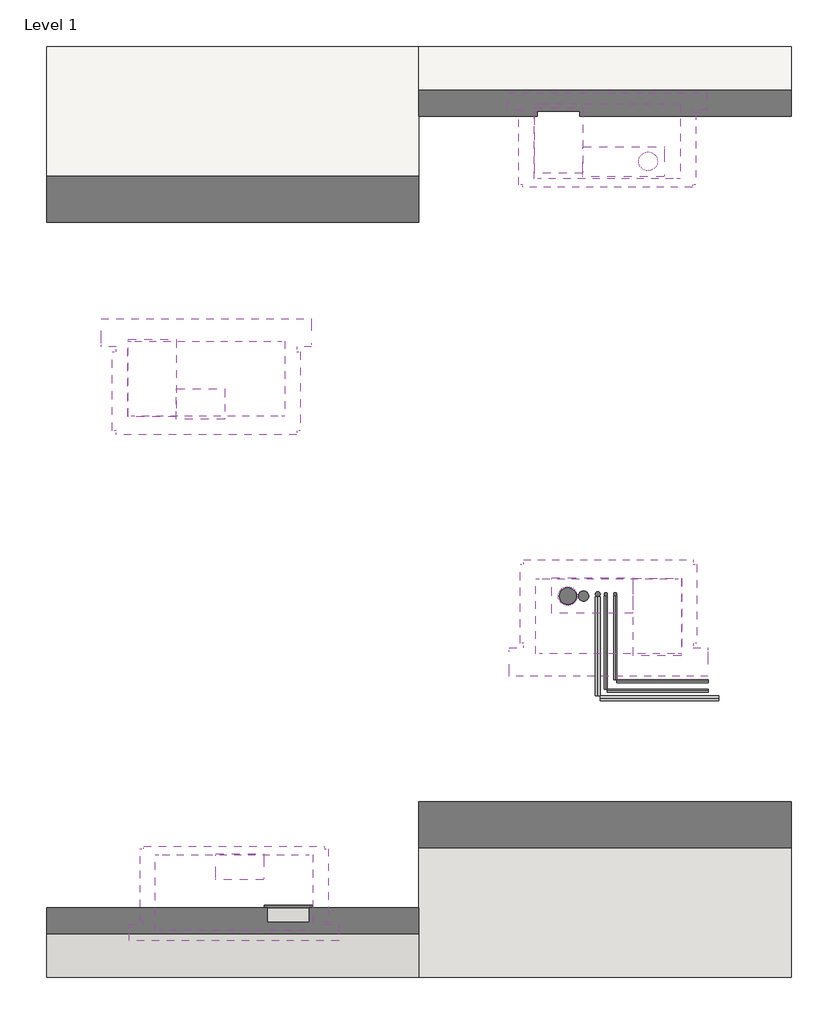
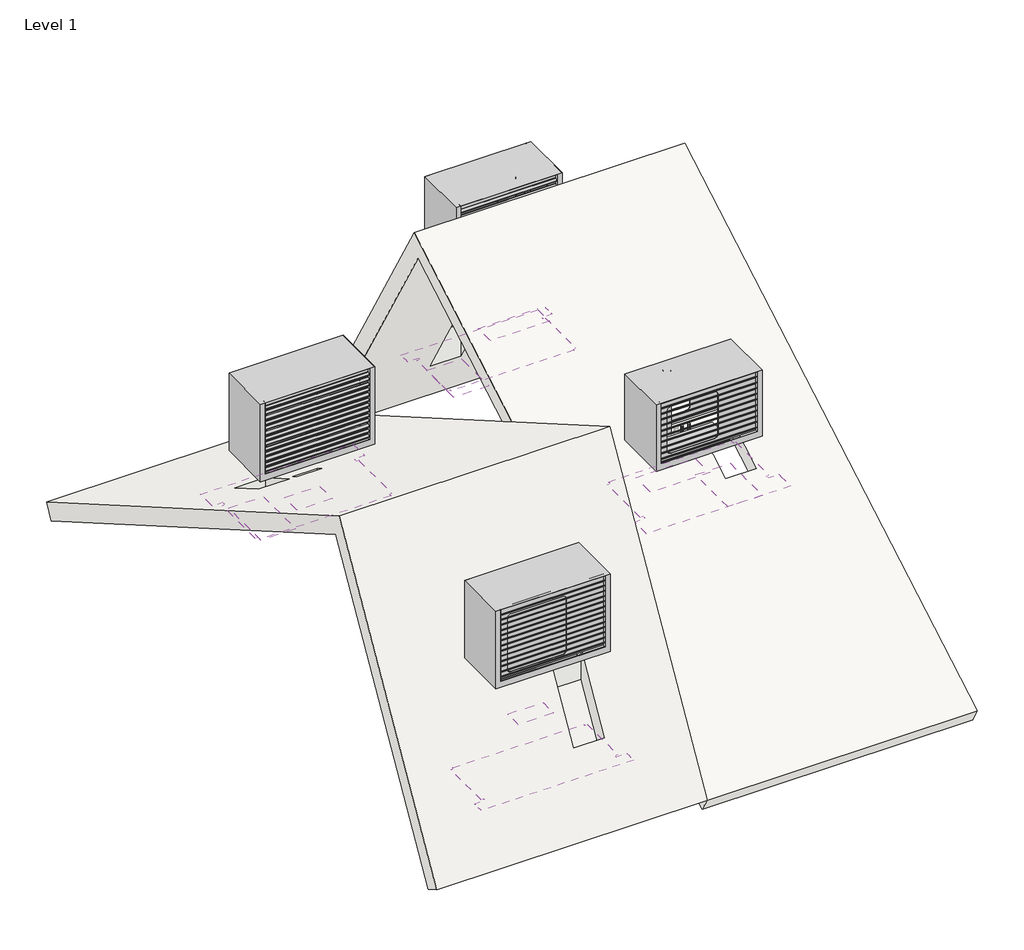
# One storey, incomplete: 12 coverings, 12 pipe segments, 4 unitary equipment elements, 2 roofs, 1 duct segment.
"""IFC4 building model written with IfcOpenShell, lengths in millimetres."""

from ifc_helpers import new_model, si_unit, point, frame, frame_2d, origin, place, context, project, spatial, circle_curve, trimmed, segment, composite_curve, outline, extrude, faceted_brep, transform, mapped, element, save
from components import covering_ebfa055f, covering_0022e7d6, covering_44cbcef2, covering_b66512e7, covering_b17e486a, covering_12e15cb3, covering_40b79405, covering_237e270b, inspection_panel_dda_93841c41, inspection_panel_dda_a83ceb8f, pipe_segment_adc9d0ba, delta_discovery_air_bdbf6794, delta_discovery_air_83ad3b17, delta_discovery_air_xl_f5126de7, delta_discovery_air_xl_14b97afa

model = new_model("IFC4")

# Units and contexts
model_context = context("Model", 3, world=origin())
ifc_project = project(units=[si_unit("LENGTHUNIT", "METRE", prefix="MILLI")], contexts=[model_context])

# Site, building, storey
site = spatial("IfcSite", under=ifc_project)
building = spatial("IfcBuilding", under=site)
storey = spatial("IfcBuildingStorey", under=building, Name="Level 1", Elevation=0.0)

# Coverings
placement = place(None, origin())
covering_shape = covering_ebfa055f(model_context)
element("IfcCovering", 1, ObjectType="M&G_5-_GM_WPB_Delta Discovery Air_roofboard-SH_BERSnl : roofboard DDA", at=placement, inside=storey, context=model_context, shape_type="MappedRepresentation", body=[
    mapped(covering_shape, transform((8173.9996074, -2235.3633269, 2475.4617163), x_axis=(0.0, 1.0, 0.0), y_axis=(-1.0, 0.0, 0.0), z_axis=(0.0, 0.0, 1.0))),
])
covering_2_shape = covering_0022e7d6(model_context)
element("IfcCovering", 2, ObjectType="M&G_5-_GM_WPB_Delta Discovery Air_roofboard-SH_BERSnl : roofboard DDA-XL", at=placement, inside=storey, context=model_context, shape_type="MappedRepresentation", body=[
    mapped(covering_2_shape, transform((4387.1169231, -5151.0925738, 1942.219356), x_axis=(0.0, 1.0, 0.0), y_axis=(-1.0, 0.0, 0.0), z_axis=(0.0, 0.0, 1.0))),
])
covering_3_shape = covering_44cbcef2(model_context)
element("IfcCovering", 3, ObjectType="M&G_5-_GM_WPB_Delta Discovery Air_roofboard-SH_BERSnl : roofboard DDA", at=placement, inside=storey, context=model_context, shape_type="MappedRepresentation", body=[
    mapped(covering_3_shape, transform((8510.5299691, 2441.3325879, 2027.822587), x_axis=(0.0, -1.0, 0.0), y_axis=(1.0, 0.0, 0.0), z_axis=(0.0, 0.0, 1.0))),
])
covering_4_shape = covering_b66512e7(model_context)
element("IfcCovering", 4, ObjectType="M&G_5-_GM_WPB_Delta Discovery Air_mountingbox-SH_BERSnl : mountingbox DDA", at=placement, inside=storey, context=model_context, shape_type="MappedRepresentation", body=[
    mapped(covering_4_shape, transform((8348.9996074, -2790.8188759, 2443.4405917), x_axis=(0.0, 1.0, 0.0), y_axis=(-1.0, 0.0, 0.0), z_axis=(0.0, 0.0, 1.0))),
])
covering_5_shape = covering_b17e486a(model_context)
element("IfcCovering", 5, ObjectType="M&G_5-_GM_WPB_Delta Discovery Air_mountingbox-SH_BERSnl : mountingbox DDA-XL", at=placement, inside=storey, context=model_context, shape_type="MappedRepresentation", body=[
    mapped(covering_5_shape, transform((4325.6169231, -5757.5859079, 1391.7305412), x_axis=(0.0, 1.0, 0.0), y_axis=(-1.0, 0.0, 0.0), z_axis=(0.0, 0.0, 1.0))),
])
covering_6_shape = covering_12e15cb3(model_context)
element("IfcCovering", 6, ObjectType="M&G_5-_GM_WPB_Delta Discovery Air_mountingbox-SH_BERSnl : mountingbox DDA", at=placement, inside=storey, context=model_context, shape_type="MappedRepresentation", body=[
    mapped(covering_6_shape, transform((8335.5299691, 2993.325922, 1571.7305412), x_axis=(0.0, -1.0, 0.0), y_axis=(1.0, 0.0, 0.0), z_axis=(0.0, 0.0, 1.0))),
])
covering_7_shape = covering_40b79405(model_context)
element("IfcCovering", 7, ObjectType="M&G_5-_GM_WPB_Delta Discovery Air_mountingbox-SH_BERSnl : mountingbox DDA-XL", at=placement, inside=storey, context=model_context, shape_type="MappedRepresentation", body=[
    mapped(covering_7_shape, transform((4028.9796779, 442.2510838, 2263.4405917), x_axis=(0.0, -1.0, 0.0), y_axis=(1.0, 0.0, 0.0), z_axis=(0.0, 0.0, 1.0))),
])
covering_8_shape = covering_237e270b(model_context)
element("IfcCovering", 8, ObjectType="M&G_5-_GM_WPB_Delta Discovery Air_roofboard-SH_BERSnl : roofboard DDA-XL", at=placement, inside=storey, context=model_context, shape_type="MappedRepresentation", body=[
    mapped(covering_8_shape, transform((3967.4796779, -166.4650275, 2326.2117163), x_axis=(0.0, -1.0, 0.0), y_axis=(1.0, 0.0, 0.0), z_axis=(0.0, 0.0, 1.0))),
])
inspection_panel_dda_shape = inspection_panel_dda_93841c41(model_context)
element("IfcCovering", 9, ObjectType="M&G_5-_GM_WPB_Delta Discovery Air_insp panel-SH_BERSnl : inspection panel DDA", at=placement, inside=storey, context=model_context, shape_type="MappedRepresentation", body=[
    mapped(inspection_panel_dda_shape, transform((8871.4996074, -2464.4270462, 2343.2117163), x_axis=(0.0, 1.0000000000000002, 0.0), y_axis=(-1.0000000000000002, 0.0, 0.0), z_axis=(0.0, 0.0, 1.0))),
])
element("IfcCovering", 10, ObjectType="M&G_5-_GM_WPB_Delta Discovery Air_insp panel-SH_BERSnl : inspection panel DDA", at=placement, inside=storey, context=model_context, shape_type="MappedRepresentation", body=[
    mapped(inspection_panel_dda_shape, transform((3446.4796779, 115.8592541, 2163.2117163), x_axis=(0.0, -1.0000000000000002, 0.0), y_axis=(1.0000000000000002, 0.0, 0.0), z_axis=(0.0, 0.0, 1.0))),
])
inspection_panel_dda_2_shape = inspection_panel_dda_a83ceb8f(model_context)
element("IfcCovering", 11, ObjectType="M&G_5-_GM_WPB_Delta Discovery Air_insp panel-SH_BERSnl : inspection panel DDA", at=placement, inside=storey, context=model_context, shape_type="MappedRepresentation", body=[
    mapped(inspection_panel_dda_2_shape, transform((4908.1169231, -5435.0925738, 1450.3169266), x_axis=(0.0, 1.0000000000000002, 0.0), y_axis=(-1.0000000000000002, 0.0, 0.0), z_axis=(0.0, 0.0, 1.0))),
])
element("IfcCovering", 12, ObjectType="M&G_5-_GM_WPB_Delta Discovery Air_insp panel-SH_BERSnl : inspection panel DDA", at=placement, inside=storey, context=model_context, shape_type="MappedRepresentation", body=[
    mapped(inspection_panel_dda_2_shape, transform((7813.0299691, 2670.8325879, 1630.3169266), x_axis=(0.0, -1.0000000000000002, 0.0), y_axis=(1.0000000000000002, 0.0, 0.0), z_axis=(0.0, 0.0, 1.0))),
])

# Duct segment
element("IfcDuctSegment", 13, ObjectType="Default", at=placement, inside=storey, context=model_context, shape_type="SweptSolid", body=[
    extrude(outline(composite_curve([segment(trimmed(circle_curve(frame_2d((7910.9996074, -2233.8255417)), 90.0), [point((7910.9996074, -2143.8255417))], [point((8000.9996074, -2233.8255417))], False, "CARTESIAN"), True, "CONTINUOUS"), segment(trimmed(circle_curve(frame_2d((7910.9996074, -2233.8255417)), 90.0), [point((8000.9996074, -2233.8255417))], [point((7910.9996074, -2323.8255417))], False, "CARTESIAN"), True, "CONTINUOUS"), segment(trimmed(circle_curve(frame_2d((7910.9996074, -2233.8255417)), 90.0), [point((7910.9996074, -2323.8255417))], [point((7820.9996074, -2233.8255417))], False, "CARTESIAN"), True, "CONTINUOUS"), segment(trimmed(circle_curve(frame_2d((7910.9996074, -2233.8255417)), 90.0), [point((7820.9996074, -2233.8255417))], [point((7910.9996074, -2143.8255417))], False, "CARTESIAN"), True, "CONTINUOUS")], self_intersect=False)), frame((0.0, 0.0, 564.2186654), z_axis=(0.0, 0.0, 1.0), x_axis=(1.0, 0.0, 0.0)), (0.0, 0.0, 1.0), 1500.0),
])

# Pipe segments
pipe_segment_shape = pipe_segment_adc9d0ba(model_context)
element("IfcPipeSegment", 14, ObjectType="M&G_5-_GM_WPB_Delta Discovery Air_pipe extension set-SH_BERSnl : pipe ext set L=1000mm", at=placement, inside=storey, context=model_context, shape_type="MappedRepresentation", body=[
    mapped(pipe_segment_shape, transform((7910.9996074, -2233.8255417, 3064.2186654), x_axis=(1.0, 0.0, 0.0), y_axis=(0.0, 1.0, 0.0), z_axis=(0.0, 0.0, 1.0))),
])
element("IfcPipeSegment", 15, ObjectType="M&G_5-_GM_WPB_Delta Discovery Air_pipe extension set-SH_BERSnl : pipe ext set L=1000mm", at=placement, inside=storey, context=model_context, shape_type="MappedRepresentation", body=[
    mapped(pipe_segment_shape, transform((8773.5299691, 2436.3325879, 3064.2186654), x_axis=(-1.0, 0.0, 0.0), y_axis=(0.0, -1.0, 0.0), z_axis=(0.0, 0.0, 1.0))),
])
element("IfcPipeSegment", 16, ObjectType="design HDPE", at=placement, inside=storey, context=model_context, shape_type="SweptSolid", body=[
    extrude(outline(composite_curve([segment(trimmed(circle_curve(frame_2d((0.0, 24.9999999)), 25.0), [point((25.0, 24.9999999))], [point((0.0, 0.0))], False, "CARTESIAN"), True, "CONTINUOUS"), segment(trimmed(circle_curve(frame_2d((0.0, 24.9999999)), 25.0), [point((0.0, 0.0))], [point((-25.0, 24.9999999))], False, "CARTESIAN"), True, "CONTINUOUS"), segment(trimmed(circle_curve(frame_2d((0.0, 24.9999999)), 25.0), [point((-25.0, 24.9999999))], [point((0.0, 50.0))], False, "CARTESIAN"), True, "CONTINUOUS"), segment(trimmed(circle_curve(frame_2d((0.0, 24.9999999)), 25.0), [point((0.0, 50.0))], [point((25.0, 24.9999999))], False, "CARTESIAN"), True, "CONTINUOUS")], self_intersect=False)), frame((8233.1495399, -3303.95623, 79.9148917), z_axis=(0.0, 0.9998875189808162, 0.01499831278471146), x_axis=(1.0, 0.0, 0.0)), (0.0, 0.0, 1.0), 1063.3784898),
])
element("IfcPipeSegment", 17, ObjectType="design HDPE", at=placement, inside=storey, context=model_context, shape_type="SweptSolid", body=[
    extrude(outline(composite_curve([segment(trimmed(circle_curve(frame_2d((0.0, 25.0)), 25.0), [point((0.0, 50.0))], [point((25.0, 25.0))], False, "CARTESIAN"), True, "CONTINUOUS"), segment(trimmed(circle_curve(frame_2d((0.0, 25.0)), 25.0), [point((25.0, 25.0))], [point((0.0, 0.0))], False, "CARTESIAN"), True, "CONTINUOUS"), segment(trimmed(circle_curve(frame_2d((0.0, 25.0)), 25.0), [point((0.0, 0.0))], [point((-25.0, 25.0))], False, "CARTESIAN"), True, "CONTINUOUS"), segment(trimmed(circle_curve(frame_2d((0.0, 25.0)), 25.0), [point((-25.0, 25.0))], [point((0.0, 50.0))], False, "CARTESIAN"), True, "CONTINUOUS")], self_intersect=False)), frame((9532.9996074, -3356.5781227, 35.0), z_axis=(-0.9998875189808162, 0.0, 0.014998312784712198), x_axis=(0.014998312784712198, 0.0, 0.9998875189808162)), (0.0, 0.0, 1.0), 1271.9962924),
])
element("IfcPipeSegment", 18, ObjectType="design HDPE", at=placement, inside=storey, context=model_context, shape_type="SweptSolid", body=[
    extrude(outline(composite_curve([segment(trimmed(circle_curve(frame_2d((8232.9996074, -2212.3255417)), 25.0), [point((8257.9996074, -2212.3255417))], [point((8232.9996074, -2237.3255417))], False, "CARTESIAN"), True, "CONTINUOUS"), segment(trimmed(circle_curve(frame_2d((8232.9996074, -2212.3255417)), 25.0), [point((8232.9996074, -2237.3255417))], [point((8207.9996074, -2212.3255417))], False, "CARTESIAN"), True, "CONTINUOUS"), segment(trimmed(circle_curve(frame_2d((8232.9996074, -2212.3255417)), 25.0), [point((8207.9996074, -2212.3255417))], [point((8232.9996074, -2187.3255417))], False, "CARTESIAN"), True, "CONTINUOUS"), segment(trimmed(circle_curve(frame_2d((8232.9996074, -2212.3255417)), 25.0), [point((8232.9996074, -2187.3255417))], [point((8257.9996074, -2212.3255417))], False, "CARTESIAN"), True, "CONTINUOUS")], self_intersect=False)), frame((0.0, 0.0, 99.2865397), z_axis=(0.0, 0.0, 1.0), x_axis=(1.0, 0.0, 0.0)), (0.0, 0.0, 1.0), 1964.9321256),
])
element("IfcPipeSegment", 19, ObjectType="design HDPE", at=placement, inside=storey, context=model_context, shape_type="SweptSolid", body=[
    extrude(outline(composite_curve([segment(trimmed(circle_curve(frame_2d((8080.9996074, -2233.8255417)), 55.0), [point((8135.9996074, -2233.8255417))], [point((8080.9996074, -2288.8255417))], False, "CARTESIAN"), True, "CONTINUOUS"), segment(trimmed(circle_curve(frame_2d((8080.9996074, -2233.8255417)), 55.0), [point((8080.9996074, -2288.8255417))], [point((8025.9996074, -2233.8255417))], False, "CARTESIAN"), True, "CONTINUOUS"), segment(trimmed(circle_curve(frame_2d((8080.9996074, -2233.8255417)), 55.0), [point((8025.9996074, -2233.8255417))], [point((8080.9996074, -2178.8255417))], False, "CARTESIAN"), True, "CONTINUOUS"), segment(trimmed(circle_curve(frame_2d((8080.9996074, -2233.8255417)), 55.0), [point((8080.9996074, -2178.8255417))], [point((8135.9996074, -2233.8255417))], False, "CARTESIAN"), True, "CONTINUOUS")], self_intersect=False)), frame((0.0, 0.0, 264.2186654), z_axis=(0.0, 0.0, 1.0), x_axis=(1.0, 0.0, 0.0)), (0.0, 0.0, 1.0), 1800.0),
])
element("IfcPipeSegment", 20, ObjectType="design steel pipes", at=placement, inside=storey, context=model_context, shape_type="SweptSolid", body=[
    extrude(outline(composite_curve([segment(trimmed(circle_curve(frame_2d((8419.9996074, -2212.3255417)), 16.85), [point((8436.8496074, -2212.3255417))], [point((8419.9996074, -2229.1755417))], False, "CARTESIAN"), True, "CONTINUOUS"), segment(trimmed(circle_curve(frame_2d((8419.9996074, -2212.3255417)), 16.85), [point((8419.9996074, -2229.1755417))], [point((8403.1496074, -2212.3255417))], False, "CARTESIAN"), True, "CONTINUOUS"), segment(trimmed(circle_curve(frame_2d((8419.9996074, -2212.3255417)), 16.85), [point((8403.1496074, -2212.3255417))], [point((8419.9996074, -2195.4755417))], False, "CARTESIAN"), True, "CONTINUOUS"), segment(trimmed(circle_curve(frame_2d((8419.9996074, -2212.3255417)), 16.85), [point((8419.9996074, -2195.4755417))], [point((8436.8496074, -2212.3255417))], False, "CARTESIAN"), True, "CONTINUOUS")], self_intersect=False)), frame((0.0, 0.0, 42.5), z_axis=(0.0, 0.0, 1.0), x_axis=(1.0, 0.0, 0.0)), (0.0, 0.0, 1.0), 3013.9759803),
])
element("IfcPipeSegment", 21, ObjectType="design steel pipes", at=placement, inside=storey, context=model_context, shape_type="SweptSolid", body=[
    extrude(outline(composite_curve([segment(trimmed(circle_curve(frame_2d((25.0, 8419.9996074)), 16.85), [point((25.0, 8403.1496074))], [point((8.15, 8419.9996074))], False, "CARTESIAN"), True, "CONTINUOUS"), segment(trimmed(circle_curve(frame_2d((25.0, 8419.9996074)), 16.85), [point((8.15, 8419.9996074))], [point((25.0, 8436.8496074))], False, "CARTESIAN"), True, "CONTINUOUS"), segment(trimmed(circle_curve(frame_2d((25.0, 8419.9996074)), 16.85), [point((25.0, 8436.8496074))], [point((41.85, 8419.9996074))], False, "CARTESIAN"), True, "CONTINUOUS"), segment(trimmed(circle_curve(frame_2d((25.0, 8419.9996074)), 16.85), [point((41.85, 8419.9996074))], [point((25.0, 8403.1496074))], False, "CARTESIAN"), True, "CONTINUOUS")], self_intersect=False)), frame((0.0, -3132.1555467, 0.0), z_axis=(0.0, 1.0, 0.0), x_axis=(0.0, 0.0, 1.0)), (0.0, 0.0, 1.0), 902.330005),
])
element("IfcPipeSegment", 22, ObjectType="design steel pipes", at=placement, inside=storey, context=model_context, shape_type="SweptSolid", body=[
    extrude(outline(composite_curve([segment(trimmed(circle_curve(frame_2d((0.0, 16.8499999)), 16.85), [point((-16.85, 16.8499999))], [point((0.0, 33.6999999))], False, "CARTESIAN"), True, "CONTINUOUS"), segment(trimmed(circle_curve(frame_2d((0.0, 16.8499999)), 16.85), [point((0.0, 33.6999999))], [point((16.85, 16.8499999))], False, "CARTESIAN"), True, "CONTINUOUS"), segment(trimmed(circle_curve(frame_2d((0.0, 16.8499999)), 16.85), [point((16.85, 16.8499999))], [point((0.0, 0.0))], False, "CARTESIAN"), True, "CONTINUOUS"), segment(trimmed(circle_curve(frame_2d((0.0, 16.8499999)), 16.85), [point((0.0, 0.0))], [point((-16.85, 16.8499999))], False, "CARTESIAN"), True, "CONTINUOUS")], self_intersect=False)), frame((8437.5000121, -3149.6555467, 8.1504204), z_axis=(0.9999999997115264, 0.0, 2.401972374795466e-05), x_axis=(0.0, 1.0, 0.0)), (0.0, 0.0, 1.0), 982.545617),
])
element("IfcPipeSegment", 23, ObjectType="design steel pipes", at=placement, inside=storey, context=model_context, shape_type="SweptSolid", body=[
    extrude(outline(composite_curve([segment(trimmed(circle_curve(frame_2d((8319.9996074, -2212.3255417)), 16.85), [point((8303.1496074, -2212.3255417))], [point((8319.9996074, -2195.4755417))], False, "CARTESIAN"), True, "CONTINUOUS"), segment(trimmed(circle_curve(frame_2d((8319.9996074, -2212.3255417)), 16.85), [point((8319.9996074, -2195.4755417))], [point((8336.8496074, -2212.3255417))], False, "CARTESIAN"), True, "CONTINUOUS"), segment(trimmed(circle_curve(frame_2d((8319.9996074, -2212.3255417)), 16.85), [point((8336.8496074, -2212.3255417))], [point((8319.9996074, -2229.1755417))], False, "CARTESIAN"), True, "CONTINUOUS"), segment(trimmed(circle_curve(frame_2d((8319.9996074, -2212.3255417)), 16.85), [point((8319.9996074, -2229.1755417))], [point((8303.1496074, -2212.3255417))], False, "CARTESIAN"), True, "CONTINUOUS")], self_intersect=False)), frame((0.0, 0.0, 42.5), z_axis=(0.0, 0.0, 1.0), x_axis=(1.0, 0.0, 0.0)), (0.0, 0.0, 1.0), 3013.9759803),
])
element("IfcPipeSegment", 24, ObjectType="design steel pipes", at=placement, inside=storey, context=model_context, shape_type="SweptSolid", body=[
    extrude(outline(composite_curve([segment(trimmed(circle_curve(frame_2d((25.0, 8319.9996074)), 16.85), [point((25.0, 8303.1496074))], [point((8.15, 8319.9996074))], False, "CARTESIAN"), True, "CONTINUOUS"), segment(trimmed(circle_curve(frame_2d((25.0, 8319.9996074)), 16.85), [point((8.15, 8319.9996074))], [point((25.0, 8336.8496074))], False, "CARTESIAN"), True, "CONTINUOUS"), segment(trimmed(circle_curve(frame_2d((25.0, 8319.9996074)), 16.85), [point((25.0, 8336.8496074))], [point((41.85, 8319.9996074))], False, "CARTESIAN"), True, "CONTINUOUS"), segment(trimmed(circle_curve(frame_2d((25.0, 8319.9996074)), 16.85), [point((41.85, 8319.9996074))], [point((25.0, 8303.1496074))], False, "CARTESIAN"), True, "CONTINUOUS")], self_intersect=False)), frame((0.0, -3232.1555467, 0.0), z_axis=(0.0, 1.0, 0.0), x_axis=(0.0, 0.0, 1.0)), (0.0, 0.0, 1.0), 1002.330005),
])
element("IfcPipeSegment", 25, ObjectType="design steel pipes", at=placement, inside=storey, context=model_context, shape_type="SweptSolid", body=[
    extrude(outline(composite_curve([segment(trimmed(circle_curve(frame_2d((0.0, 16.8499999)), 16.85), [point((-16.85, 16.8499999))], [point((0.0, 33.6999999))], False, "CARTESIAN"), True, "CONTINUOUS"), segment(trimmed(circle_curve(frame_2d((0.0, 16.8499999)), 16.85), [point((0.0, 33.6999999))], [point((16.85, 16.8499999))], False, "CARTESIAN"), True, "CONTINUOUS"), segment(trimmed(circle_curve(frame_2d((0.0, 16.8499999)), 16.85), [point((16.85, 16.8499999))], [point((0.0, 0.0))], False, "CARTESIAN"), True, "CONTINUOUS"), segment(trimmed(circle_curve(frame_2d((0.0, 16.8499999)), 16.85), [point((0.0, 0.0))], [point((-16.85, 16.8499999))], False, "CARTESIAN"), True, "CONTINUOUS")], self_intersect=False)), frame((8337.5000121, -3249.6555467, 8.1504204), z_axis=(0.9999999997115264, 0.0, 2.401972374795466e-05), x_axis=(0.0, 1.0, 0.0)), (0.0, 0.0, 1.0), 1082.545617),
])

# Roofs
element("IfcRoof", 26, ObjectType="Roof 1", at=placement, inside=storey, context=model_context, shape_type="Brep", body=[
    faceted_brep([(2311.6571684, -6330.1684687, 400.0), (2311.6571684, -3830.1684687, 4730.1270189), (2311.6571684, 3669.8315313, 400.0), (2311.6571684, 3544.8315313, 183.4936491), (2311.6571684, -3738.6621178, 4388.620668), (2311.6571684, -6113.6621178, 275.0), (6311.6571684, -3830.1684687, 4730.1270189), (6311.6571684, -6330.1684687, 400.0), (6311.6571684, -6113.6621178, 275.0), (6311.6571684, -3738.6621178, 4388.620668), (6311.6571684, 3544.8315313, 183.4936491), (6311.6571684, 3669.8315313, 400.0), (5135.6169231, -5132.5925738, 2474.2622959), (5135.6169231, -5737.5925738, 1426.3715573), (4680.6169231, -5737.5925738, 1426.3715573), (4680.6169231, -5132.5925738, 2474.2622959), (4582.6169231, -5091.0925738, 2546.1424044), (4582.6169231, -5211.0925738, 2338.2963075), (4219.6169231, -5211.0925738, 2338.2963075), (4219.6169231, -5091.0925738, 2546.1424044), (3218.9796779, -186.8166245, 2626.6368509), (3218.9796779, 418.5351327, 2277.1368509), (3673.9796779, 418.5351327, 2277.1368509), (3673.9796779, -186.8166245, 2626.6368509), (3771.9796779, -226.6537931, 2649.6368509), (3771.9796779, -106.276262, 2580.1368509), (4134.9796779, -106.276262, 2580.1368509), (4134.9796779, -226.6537931, 2649.6368509), (3218.9796779, 418.5351327, 1988.4617163), (3218.9796779, -186.8166245, 2337.9617163), (3673.9796779, -186.8166245, 2337.9617163), (3673.9796779, 418.5351327, 1988.4617163), (3771.9796779, -106.276262, 2291.4617163), (3771.9796779, -226.6537931, 2360.9617163), (4134.9796779, -226.6537931, 2360.9617163), (4134.9796779, -106.276262, 2291.4617163), (5135.6169231, -5737.5925738, 926.3715573), (5135.6169231, -5132.5925738, 1974.2622959), (4680.6169231, -5132.5925738, 1974.2622959), (4680.6169231, -5737.5925738, 926.3715573), (4582.6169231, -5211.0925738, 1838.2963075), (4582.6169231, -5091.0925738, 2046.1424044), (4219.6169231, -5091.0925738, 2046.1424044), (4219.6169231, -5211.0925738, 1838.2963075)], [[[0, 1, 2, 3, 4, 5]], [[6, 7, 8, 9, 10, 11]], [[1, 0, 7, 6], [12, 13, 14, 15], [16, 17, 18, 19]], [[2, 1, 6, 11], [20, 21, 22, 23], [24, 25, 26, 27]], [[9, 4, 3, 10], [28, 29, 30, 31], [32, 33, 34, 35]], [[4, 9, 8, 5], [36, 37, 38, 39], [40, 41, 42, 43]], [[3, 2, 11, 10]], [[0, 5, 8, 7]], [[36, 13, 12, 37]], [[38, 15, 14, 39]], [[37, 12, 15, 38]], [[13, 36, 39, 14]], [[40, 17, 16, 41]], [[42, 19, 18, 43]], [[41, 16, 19, 42]], [[17, 40, 43, 18]], [[28, 21, 20, 29]], [[30, 23, 22, 31]], [[29, 20, 23, 30]], [[21, 28, 31, 22]], [[32, 25, 24, 33]], [[34, 27, 26, 35]], [[33, 24, 27, 34]], [[25, 32, 35, 26]]]),
])
element("IfcRoof", 27, ObjectType="Roof 1", at=placement, inside=storey, context=model_context, shape_type="Brep", body=[
    faceted_brep([(10311.6571684, 3669.8315313, 400.0), (10311.6571684, 1169.8315313, 4730.1270189), (10311.6571684, -6330.1684687, 400.0), (10311.6571684, -6205.1684687, 183.4936491), (10311.6571684, 1078.3251803, 4388.620668), (10311.6571684, 3453.3251803, 275.0), (6311.6571684, 1169.8315313, 4730.1270189), (6311.6571684, 3669.8315313, 400.0), (6311.6571684, 3453.3251803, 275.0), (6311.6571684, 1078.3251803, 4388.620668), (6311.6571684, -6205.1684687, 183.4936491), (6311.6571684, -6330.1684687, 400.0), (7585.5299691, 2368.3325879, 2654.2622959), (7585.5299691, 2973.3325879, 1606.3715573), (8040.5299691, 2973.3325879, 1606.3715573), (8040.5299691, 2368.3325879, 2654.2622959), (8142.5299691, 2331.3325879, 2718.3481758), (8142.5299691, 2551.3325879, 2337.2969981), (8884.5299691, 2551.3325879, 2337.2969981), (8884.5299691, 2331.3325879, 2718.3481758), (9098.9996074, -2161.7511676, 2806.6368509), (9098.9996074, -2767.1029248, 2457.1368509), (8643.9996074, -2767.1029248, 2457.1368509), (8643.9996074, -2161.7511676, 2806.6368509), (8541.9996074, -2125.3781006, 2827.6368509), (8541.9996074, -2345.3485532, 2700.6368509), (7799.9996074, -2345.3485532, 2700.6368509), (7799.9996074, -2125.3781006, 2827.6368509), (9098.9996074, -2767.1029248, 2168.4617163), (9098.9996074, -2161.7511676, 2517.9617163), (8643.9996074, -2161.7511676, 2517.9617163), (8643.9996074, -2767.1029248, 2168.4617163), (8541.9996074, -2345.3485532, 2411.9617163), (8541.9996074, -2125.3781006, 2538.9617163), (7799.9996074, -2125.3781006, 2538.9617163), (7799.9996074, -2345.3485532, 2411.9617163), (7585.5299691, 2973.3325879, 1106.3715573), (7585.5299691, 2368.3325879, 2154.2622959), (8040.5299691, 2368.3325879, 2154.2622959), (8040.5299691, 2973.3325879, 1106.3715573), (8142.5299691, 2551.3325879, 1837.2969981), (8142.5299691, 2331.3325879, 2218.3481758), (8884.5299691, 2331.3325879, 2218.3481758), (8884.5299691, 2551.3325879, 1837.2969981)], [[[0, 1, 2, 3, 4, 5]], [[6, 7, 8, 9, 10, 11]], [[1, 0, 7, 6], [12, 13, 14, 15], [16, 17, 18, 19]], [[2, 1, 6, 11], [20, 21, 22, 23], [24, 25, 26, 27]], [[9, 4, 3, 10], [28, 29, 30, 31], [32, 33, 34, 35]], [[4, 9, 8, 5], [36, 37, 38, 39], [40, 41, 42, 43]], [[3, 2, 11, 10]], [[0, 5, 8, 7]], [[28, 21, 20, 29]], [[30, 23, 22, 31]], [[29, 20, 23, 30]], [[21, 28, 31, 22]], [[32, 25, 24, 33]], [[34, 27, 26, 35]], [[33, 24, 27, 34]], [[25, 32, 35, 26]], [[36, 13, 12, 37]], [[38, 15, 14, 39]], [[37, 12, 15, 38]], [[13, 36, 39, 14]], [[40, 17, 16, 41]], [[42, 19, 18, 43]], [[41, 16, 19, 42]], [[17, 40, 43, 18]]]),
])

# Unitary equipment
delta_discovery_air_shape = delta_discovery_air_bdbf6794(model_context)
element("IfcUnitaryEquipment", 28, ObjectType="M&G_5-_GM_WPB_Delta Discovery Air_BERSnl : Delta Discovery Air", at=placement, inside=storey, context=model_context, shape_type="MappedRepresentation", body=[
    mapped(delta_discovery_air_shape, transform((8348.9996074, -2048.3255417, 2872.1231665), x_axis=(1.0, 0.0, 0.0), y_axis=(0.0, 1.0, 0.0), z_axis=(0.0, 0.0, 1.0))),
])
delta_discovery_air_2_shape = delta_discovery_air_83ad3b17(model_context)
element("IfcUnitaryEquipment", 29, ObjectType="M&G_5-_GM_WPB_Delta Discovery Air_BERSnl : Delta Discovery Air", at=placement, inside=storey, context=model_context, shape_type="MappedRepresentation", body=[
    mapped(delta_discovery_air_2_shape, transform((8335.5299691, 2250.8325879, 2857.7782658), x_axis=(-1.0, 0.0, 0.0), y_axis=(0.0, -1.0, 0.0), z_axis=(0.0, 0.0, 1.0))),
])
delta_discovery_air_xl_shape = delta_discovery_air_xl_f5126de7(model_context)
element("IfcUnitaryEquipment", 30, ObjectType="M&G_5-_GM_WPB_Delta Discovery Air_BERSnl : Delta Discovery Air-XL", at=placement, inside=storey, context=model_context, shape_type="MappedRepresentation", body=[
    mapped(delta_discovery_air_xl_shape, transform((4325.6169231, -5015.0925738, 2677.7782658), x_axis=(1.0, 0.0, 0.0), y_axis=(0.0, 1.0, 0.0), z_axis=(0.0, 0.0, 1.0))),
])
delta_discovery_air_xl_2_shape = delta_discovery_air_xl_14b97afa(model_context)
element("IfcUnitaryEquipment", 31, ObjectType="M&G_5-_GM_WPB_Delta Discovery Air_BERSnl : Delta Discovery Air-XL", at=placement, inside=storey, context=model_context, shape_type="MappedRepresentation", body=[
    mapped(delta_discovery_air_xl_2_shape, transform((4028.9796779, -300.2422504, 2692.1231665), x_axis=(-1.0, 0.0, 0.0), y_axis=(0.0, -1.0, 0.0), z_axis=(0.0, 0.0, 1.0))),
])

save(model, "model.ifc")
